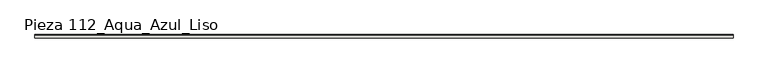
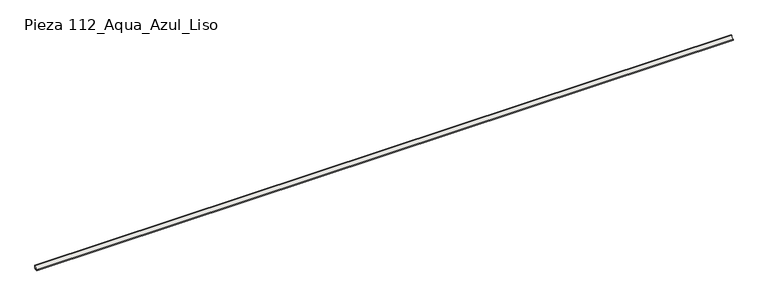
"""IFC4 building model written with IfcOpenShell, lengths in millimetres: slab geometry, ROSA GRES_112 : Pieza 112_Aqua_Azul_Liso."""

from ifc_helpers import new_model, si_unit, point, frame, frame_2d, origin, place, context, project, spatial, polyline, circle_curve, trimmed, segment, composite_curve, outline, extrude, source, transform, mapped, element, save


def pieza_112_aqua_azul_liso_420040c8(model_context):
    return source(origin(), model_context, "Body", "SweptSolid", [
        extrude(outline(composite_curve([segment(polyline([(0.0, 8.7114978), (-8.7114978, 0.0), (-40.0, 0.0), (-40.0, 9.9734114)]), True, "CONTINUOUS"), segment(trimmed(circle_curve(frame_2d((-39.9955547, 39.9955547)), 30.0221435), [point((-40.0, 9.9734114))], [point((-9.9734114, 40.0))], True, "CARTESIAN"), True, "CONTINUOUS"), segment(polyline([(-9.9734114, 40.0), (0.0, 40.0), (0.0, 8.7114978)]), True, "CONTINUOUS")], self_intersect=False)), frame((0.0, 0.0, 0.0), z_axis=(1.0, 0.0, 0.0), x_axis=(0.0, 1.0, 0.0)), (0.0, 0.0, 1.0), 7940.0),
    ])


if __name__ == "__main__":
    model = new_model("IFC4")
    model_context = context("Model", 3, world=origin())
    ifc_project = project(units=[si_unit("LENGTHUNIT", "METRE", prefix="MILLI")], contexts=[model_context])
    site = spatial("IfcSite", under=ifc_project)
    building = spatial("IfcBuilding", under=site)
    placement = place(None, origin())
    pieza_112_aqua_azul_liso_shape = pieza_112_aqua_azul_liso_420040c8(model_context)
    element("IfcSlab", 1, ObjectType="ROSA GRES_112 : Pieza 112_Aqua_Azul_Liso", at=placement, inside=building, context=model_context, shape_type="MappedRepresentation", body=[
        mapped(pieza_112_aqua_azul_liso_shape, transform((0.0, 0.0, 0.0), x_axis=(1.0, 0.0, 0.0), y_axis=(0.0, 1.0, 0.0), z_axis=(0.0, 0.0, 1.0))),
    ])
    save(model, "model.ifc")
